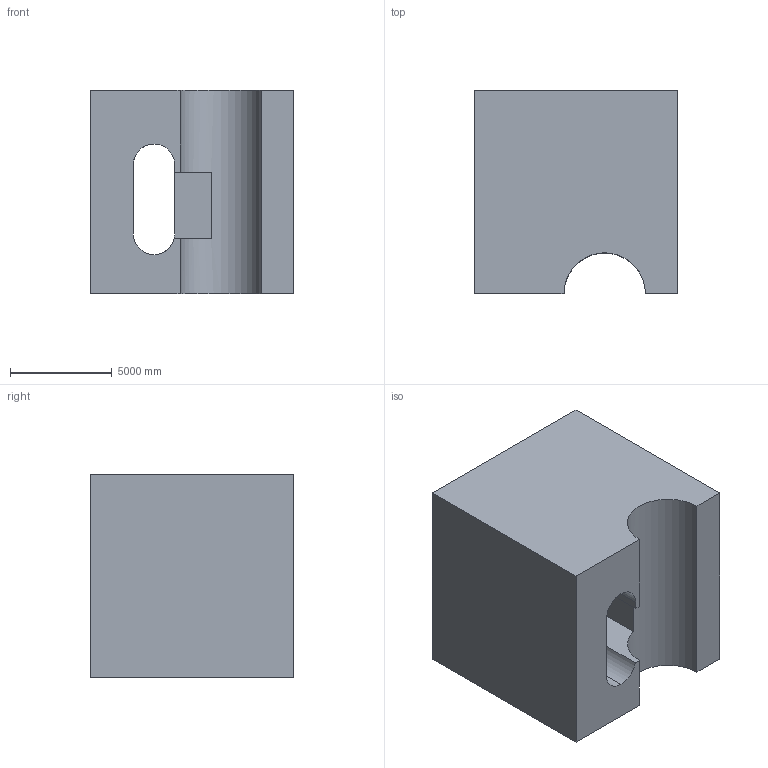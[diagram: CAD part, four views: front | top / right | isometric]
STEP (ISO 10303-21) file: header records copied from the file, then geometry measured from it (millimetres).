
FILE_DESCRIPTION (( 'STEP AP203' ), '1' );
FILE_NAME ('361.STEP', '2022-07-28T14:29:13', ( 'user' ), ( '' ), 'SwSTEP 2.0', 'SolidWorks 2021', '' );
FILE_SCHEMA (( 'CONFIG_CONTROL_DESIGN' ));
Length unit declared in the file: centimetre
Products named in the file (1): 361
Bounding box: 10000 x 10000 x 10000 mm (x, y, z)
Volume: 789777232917.4 mm3; surface area: 766066971 mm2
Topology: 1 solids, 1 shells, 24 faces, 72 edges, 48 vertices
Faces by surface type: plane 20, cylinder 4
Entity records: 896 total; most frequent: CARTESIAN_POINT 145, ORIENTED_EDGE 144, DIRECTION 137, EDGE_CURVE 72, LINE 57, VECTOR 57, VERTEX_POINT 48, AXIS2_PLACEMENT_3D 40
